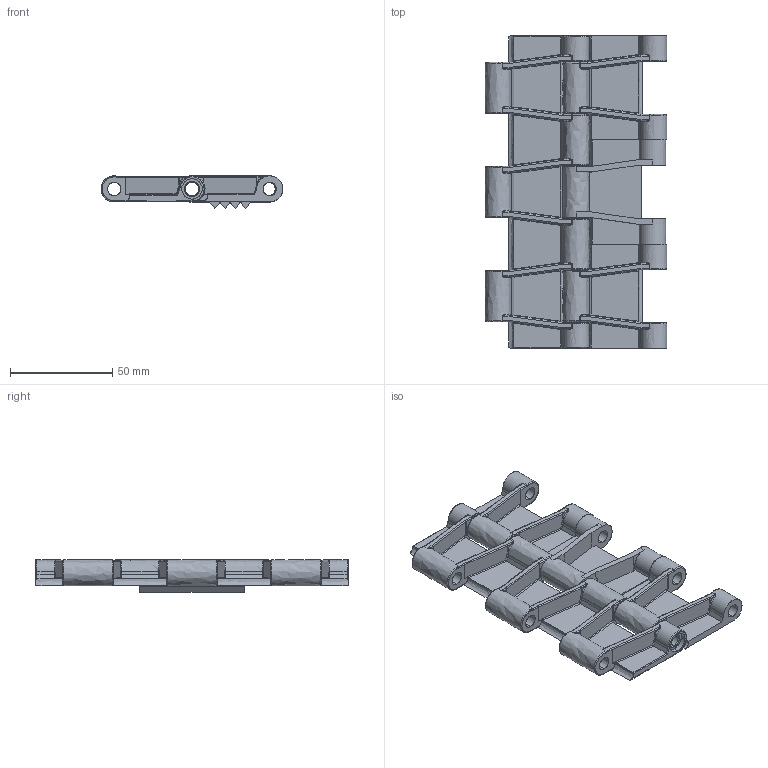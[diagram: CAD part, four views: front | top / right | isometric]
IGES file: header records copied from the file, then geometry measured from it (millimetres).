
Start section: SolidWorks IGES file using analytic representation for surfaces
Global section: file name: C:\Documents and Settings\URETIM3\Desktop\yeni katalog tolgay\833 M03 K06.IGS; native system: SolidWorks 2006 by SolidWorks Corporation; preprocessor: SolidWorks 2006 by SolidWorks Corporation; author: URETIM3; date: 061107.152246; units: millimetre
Bounding box: 89 x 153 x 16 mm (x, y, z)
Surface area: 41786 mm2 (no closed solid volume)
Topology: 0 solids, 0 shells, 593 faces, 5816 edges, 5796 vertices
Faces by surface type: bspline 341, revolution 252
